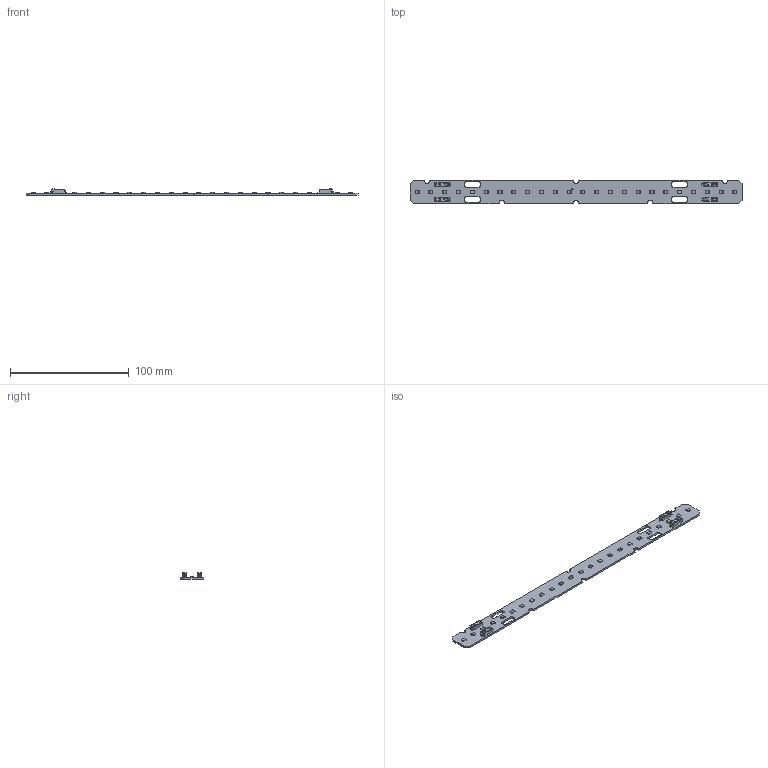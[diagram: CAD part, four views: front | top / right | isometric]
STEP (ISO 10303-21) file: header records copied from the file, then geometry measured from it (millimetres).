
FILE_DESCRIPTION((''),'2;1');
FILE_NAME('16208832_LLE-20X280-4T-1250LM','2019-05-09T08:37:46',('bernhard.fink'),(''),'CREO PARAMETRIC BY PTC INC, 2017380','CREO PARAMETRIC BY PTC INC, 2017380','');
FILE_SCHEMA(('AUTOMOTIVE_DESIGN { 1 0 10303 214 1 1 1 1 }'));
Products named in the file (1): 16208832_LLE-20X280-4T-1250LM
Bounding box: 279 x 19.8 x 5.05 mm (x, y, z)
Surface area: 13128.9 mm2 (no closed solid volume)
Topology: 0 solids, 33 shells, 1653 faces, 4677 edges, 3050 vertices
Faces by surface type: plane 928, cylinder 369, bspline 228, cone 68, torus 36, sphere 24
Entity records: 86597 total; most frequent: CARTESIAN_POINT 22751, ORIENTED_EDGE 9042, DIRECTION 6986, PRESENTATION_STYLE_ASSIGNMENT 6015, STYLED_ITEM 4698, CURVE_STYLE 4665, EDGE_CURVE 4665, VERTEX_POINT 3050
